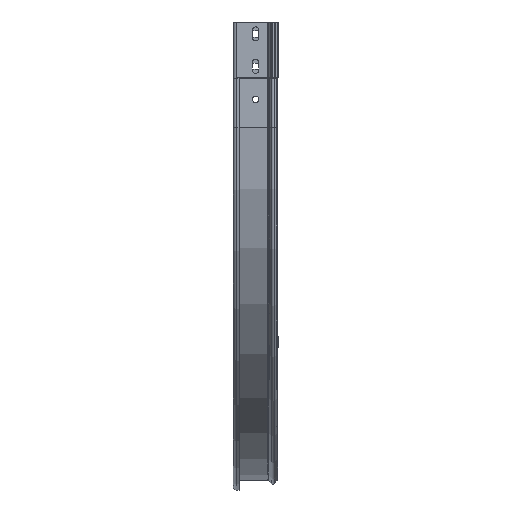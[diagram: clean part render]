
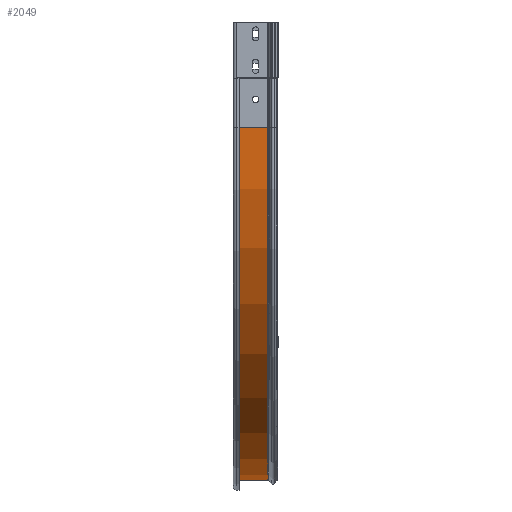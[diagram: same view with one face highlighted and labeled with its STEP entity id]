
A CAD part, left-side view. The second image highlights one B-rep face of the part: STEP entity #2049.
In plain terms, the highlighted cylindrical face has radius 501.2 mm (diameter 1002.4 mm), a partial arc.
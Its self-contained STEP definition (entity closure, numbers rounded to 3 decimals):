
#111 = FACE_OUTER_BOUND ( 'NONE', #7339, .T. ) ;
#223 = DIRECTION ( 'NONE',  ( 0., 0., 1. ) ) ;
#422 = CIRCLE ( 'NONE', #2223, 501.2 ) ;
#455 = EDGE_CURVE ( 'NONE', #8234, #6652, #2982, .T. ) ;
#1860 = EDGE_CURVE ( 'NONE', #4574, #6652, #6833, .T. ) ;
#1930 = ORIENTED_EDGE ( 'NONE', *, *, #1860, .T. ) ;
#1956 = DIRECTION ( 'NONE',  ( 0., -1., 0. ) ) ;
#2049 = ADVANCED_FACE ( 'NONE', ( #111 ), #8027, .T. ) ;
#2102 = DIRECTION ( 'NONE',  ( 0., 0., 1. ) ) ;
#2109 = CARTESIAN_POINT ( 'NONE',  ( 500., 59., -651.2 ) ) ;
#2223 = AXIS2_PLACEMENT_3D ( 'NONE', #6407, #9851, #2102 ) ;
#2781 = LINE ( 'NONE', #8976, #5887 ) ;
#2982 = LINE ( 'NONE', #9809, #9876 ) ;
#3336 = EDGE_CURVE ( 'NONE', #4574, #10591, #2781, .T. ) ;
#3523 = CARTESIAN_POINT ( 'NONE',  ( 500., 14.319, -651.2 ) ) ;
#4084 = ORIENTED_EDGE ( 'NONE', *, *, #3336, .F. ) ;
#4086 = DIRECTION ( 'NONE',  ( 0., 1., 0. ) ) ;
#4468 = CARTESIAN_POINT ( 'NONE',  ( 500., 0., -150. ) ) ;
#4574 = VERTEX_POINT ( 'NONE', #3523 ) ;
#4764 = DIRECTION ( 'NONE',  ( 0., 0., 1. ) ) ;
#5190 = EDGE_CURVE ( 'NONE', #10591, #8234, #422, .T. ) ;
#5887 = VECTOR ( 'NONE', #8028, 1000. ) ;
#6403 = ORIENTED_EDGE ( 'NONE', *, *, #5190, .F. ) ;
#6407 = CARTESIAN_POINT ( 'NONE',  ( 500., 59., -150. ) ) ;
#6652 = VERTEX_POINT ( 'NONE', #9891 ) ;
#6833 = CIRCLE ( 'NONE', #8448, 501.2 ) ;
#7339 = EDGE_LOOP ( 'NONE', ( #6403, #4084, #1930, #9774 ) ) ;
#7917 = AXIS2_PLACEMENT_3D ( 'NONE', #4468, #10564, #223 ) ;
#8027 = CYLINDRICAL_SURFACE ( 'NONE', #7917, 501.2 ) ;
#8028 = DIRECTION ( 'NONE',  ( 0., 1., 0. ) ) ;
#8234 = VERTEX_POINT ( 'NONE', #10776 ) ;
#8377 = CARTESIAN_POINT ( 'NONE',  ( 500., 14.319, -150. ) ) ;
#8448 = AXIS2_PLACEMENT_3D ( 'NONE', #8377, #4086, #4764 ) ;
#8976 = CARTESIAN_POINT ( 'NONE',  ( 500., 14.319, -651.2 ) ) ;
#9774 = ORIENTED_EDGE ( 'NONE', *, *, #455, .F. ) ;
#9809 = CARTESIAN_POINT ( 'NONE',  ( -1.2, 14.319, -150. ) ) ;
#9851 = DIRECTION ( 'NONE',  ( 0., 1., 0. ) ) ;
#9876 = VECTOR ( 'NONE', #1956, 1000. ) ;
#9891 = CARTESIAN_POINT ( 'NONE',  ( -1.2, 14.319, -150. ) ) ;
#10564 = DIRECTION ( 'NONE',  ( 0., 1., 0. ) ) ;
#10591 = VERTEX_POINT ( 'NONE', #2109 ) ;
#10776 = CARTESIAN_POINT ( 'NONE',  ( -1.2, 59., -150. ) ) ;
